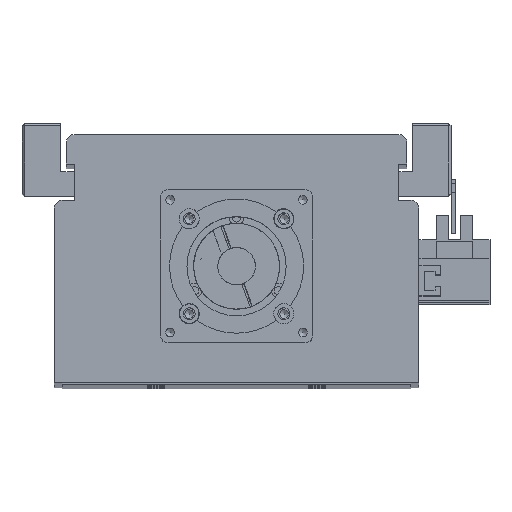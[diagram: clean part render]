
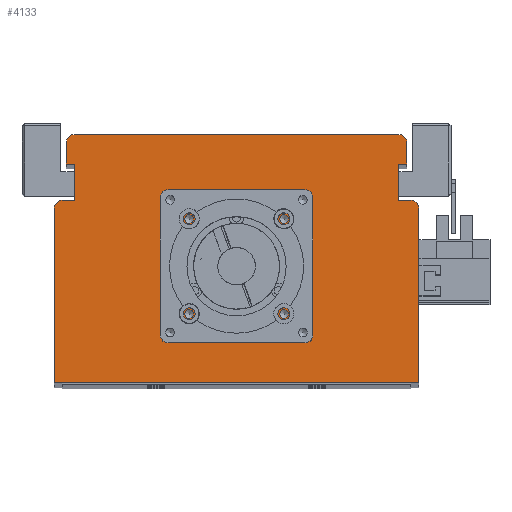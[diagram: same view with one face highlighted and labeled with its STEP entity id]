
A CAD part, top view. The second image highlights one B-rep face of the part: STEP entity #4133.
In plain terms, the highlighted planar face has unit normal (0, 0, 1).
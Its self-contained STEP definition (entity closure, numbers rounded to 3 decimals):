
#2691=CARTESIAN_POINT('',(19.321,61.5,1045.));
#2692=VERTEX_POINT('',#2691);
#2693=CARTESIAN_POINT('',(17.7,61.5,1045.));
#2694=DIRECTION('',(0.0,0.0,-1.0));
#2695=DIRECTION('',(1.0,0.0,0.0));
#2696=AXIS2_PLACEMENT_3D('',#2693,#2694,#2695);
#2697=CIRCLE('',#2696,1.621);
#2698=EDGE_CURVE('',#2692,#2692,#2697,.T.);
#2770=CARTESIAN_POINT('',(19.321,26.1,1045.));
#2771=VERTEX_POINT('',#2770);
#2772=CARTESIAN_POINT('',(17.7,26.1,1045.));
#2773=DIRECTION('',(0.0,0.0,-1.0));
#2774=DIRECTION('',(1.0,0.0,0.0));
#2775=AXIS2_PLACEMENT_3D('',#2772,#2773,#2774);
#2776=CIRCLE('',#2775,1.621);
#2777=EDGE_CURVE('',#2771,#2771,#2776,.T.);
#2849=CARTESIAN_POINT('',(-16.079,26.1,1045.));
#2850=VERTEX_POINT('',#2849);
#2851=CARTESIAN_POINT('',(-17.7,26.1,1045.));
#2852=DIRECTION('',(0.0,0.0,-1.0));
#2853=DIRECTION('',(1.0,0.0,0.0));
#2854=AXIS2_PLACEMENT_3D('',#2851,#2852,#2853);
#2855=CIRCLE('',#2854,1.621);
#2856=EDGE_CURVE('',#2850,#2850,#2855,.T.);
#2928=CARTESIAN_POINT('',(-16.079,61.5,1045.));
#2929=VERTEX_POINT('',#2928);
#2930=CARTESIAN_POINT('',(-17.7,61.5,1045.));
#2931=DIRECTION('',(0.0,0.0,-1.0));
#2932=DIRECTION('',(1.0,0.0,0.0));
#2933=AXIS2_PLACEMENT_3D('',#2930,#2931,#2932);
#2934=CIRCLE('',#2933,1.621);
#2935=EDGE_CURVE('',#2929,#2929,#2934,.T.);
#2969=CARTESIAN_POINT('',(26.5,43.8,1045.));
#2970=VERTEX_POINT('',#2969);
#2971=CARTESIAN_POINT('',(24.5,43.8,1045.));
#2972=DIRECTION('',(0.0,0.0,-1.0));
#2973=DIRECTION('',(1.0,0.0,0.0));
#2974=AXIS2_PLACEMENT_3D('',#2971,#2972,#2973);
#2975=CIRCLE('',#2974,2.0);
#2976=EDGE_CURVE('',#2970,#2970,#2975,.T.);
#3018=CARTESIAN_POINT('',(-22.5,43.8,1045.));
#3019=VERTEX_POINT('',#3018);
#3020=CARTESIAN_POINT('',(-24.5,43.8,1045.));
#3021=DIRECTION('',(0.0,0.0,-1.0));
#3022=DIRECTION('',(1.0,0.0,0.0));
#3023=AXIS2_PLACEMENT_3D('',#3020,#3021,#3022);
#3024=CIRCLE('',#3023,2.0);
#3025=EDGE_CURVE('',#3019,#3019,#3024,.T.);
#3949=CARTESIAN_POINT('',(21.05,43.8,1045.));
#3950=VERTEX_POINT('',#3949);
#3951=CARTESIAN_POINT('',(0.0,43.8,1045.));
#3952=DIRECTION('',(0.0,0.0,-1.0));
#3953=DIRECTION('',(-1.0,0.0,0.0));
#3954=AXIS2_PLACEMENT_3D('',#3951,#3952,#3953);
#3955=CIRCLE('',#3954,21.05);
#3956=EDGE_CURVE('',#3950,#3950,#3955,.T.);
#3973=CARTESIAN_POINT('',(0.,29.533,1045.));
#3974=DIRECTION('',(0.0,0.0,1.0));
#3975=DIRECTION('',(1.0,0.0,0.0));
#3976=AXIS2_PLACEMENT_3D('',#3973,#3974,#3975);
#3977=PLANE('',#3976);
#3978=CARTESIAN_POINT('',(-65.,68.5,1045.));
#3979=VERTEX_POINT('',#3978);
#3980=CARTESIAN_POINT('',(-60.5,68.5,1045.));
#3981=VERTEX_POINT('',#3980);
#3982=CARTESIAN_POINT('',(-65.,68.5,1045.));
#3983=DIRECTION('',(1.0,0.0,0.0));
#3984=VECTOR('',#3983,4.5);
#3985=LINE('',#3982,#3984);
#3986=EDGE_CURVE('',#3979,#3981,#3985,.T.);
#3987=ORIENTED_EDGE('',*,*,#3986,.F.);
#3988=CARTESIAN_POINT('',(-68.,65.5,1045.));
#3989=VERTEX_POINT('',#3988);
#3990=CARTESIAN_POINT('',(-65.,65.5,1045.0));
#3991=DIRECTION('',(0.0,0.0,-1.0));
#3992=DIRECTION('',(0.0,1.0,0.0));
#3993=AXIS2_PLACEMENT_3D('',#3990,#3991,#3992);
#3994=CIRCLE('',#3993,3.);
#3995=EDGE_CURVE('',#3989,#3979,#3994,.T.);
#3996=ORIENTED_EDGE('',*,*,#3995,.F.);
#3997=CARTESIAN_POINT('',(-68.0,0.5,1045.));
#3998=VERTEX_POINT('',#3997);
#3999=CARTESIAN_POINT('',(-68.0,0.5,1045.));
#4000=DIRECTION('',(0.0,1.0,0.0));
#4001=VECTOR('',#4000,65.0);
#4002=LINE('',#3999,#4001);
#4003=EDGE_CURVE('',#3998,#3989,#4002,.T.);
#4004=ORIENTED_EDGE('',*,*,#4003,.F.);
#4005=CARTESIAN_POINT('',(68.0,0.5,1045.));
#4006=VERTEX_POINT('',#4005);
#4007=CARTESIAN_POINT('',(68.0,0.5,1045.));
#4008=DIRECTION('',(-1.0,0.0,0.0));
#4009=VECTOR('',#4008,136.0);
#4010=LINE('',#4007,#4009);
#4011=EDGE_CURVE('',#4006,#3998,#4010,.T.);
#4012=ORIENTED_EDGE('',*,*,#4011,.F.);
#4013=CARTESIAN_POINT('',(68.0,65.5,1045.));
#4014=VERTEX_POINT('',#4013);
#4015=CARTESIAN_POINT('',(68.0,65.5,1045.));
#4016=DIRECTION('',(0.0,-1.0,0.0));
#4017=VECTOR('',#4016,65.0);
#4018=LINE('',#4015,#4017);
#4019=EDGE_CURVE('',#4014,#4006,#4018,.T.);
#4020=ORIENTED_EDGE('',*,*,#4019,.F.);
#4021=CARTESIAN_POINT('',(65.,68.5,1045.));
#4022=VERTEX_POINT('',#4021);
#4023=CARTESIAN_POINT('',(65.,65.5,1045.0));
#4024=DIRECTION('',(0.0,0.0,-1.0));
#4025=DIRECTION('',(1.0,0.0,0.0));
#4026=AXIS2_PLACEMENT_3D('',#4023,#4024,#4025);
#4027=CIRCLE('',#4026,3.);
#4028=EDGE_CURVE('',#4022,#4014,#4027,.T.);
#4029=ORIENTED_EDGE('',*,*,#4028,.F.);
#4030=CARTESIAN_POINT('',(60.5,68.5,1045.));
#4031=VERTEX_POINT('',#4030);
#4032=CARTESIAN_POINT('',(60.5,68.5,1045.));
#4033=DIRECTION('',(1.0,0.0,0.0));
#4034=VECTOR('',#4033,4.5);
#4035=LINE('',#4032,#4034);
#4036=EDGE_CURVE('',#4031,#4022,#4035,.T.);
#4037=ORIENTED_EDGE('',*,*,#4036,.F.);
#4038=CARTESIAN_POINT('',(60.5,82.,1045.0));
#4039=VERTEX_POINT('',#4038);
#4040=CARTESIAN_POINT('',(60.5,82.,1045.0));
#4041=DIRECTION('',(0.0,-1.0,0.0));
#4042=VECTOR('',#4041,13.5);
#4043=LINE('',#4040,#4042);
#4044=EDGE_CURVE('',#4039,#4031,#4043,.T.);
#4045=ORIENTED_EDGE('',*,*,#4044,.F.);
#4046=CARTESIAN_POINT('',(63.5,82.,1045.0));
#4047=VERTEX_POINT('',#4046);
#4048=CARTESIAN_POINT('',(63.5,82.,1045.0));
#4049=DIRECTION('',(-1.0,0.0,0.0));
#4050=VECTOR('',#4049,3.0);
#4051=LINE('',#4048,#4050);
#4052=EDGE_CURVE('',#4047,#4039,#4051,.T.);
#4053=ORIENTED_EDGE('',*,*,#4052,.F.);
#4054=CARTESIAN_POINT('',(63.5,90.0,1045.0));
#4055=VERTEX_POINT('',#4054);
#4056=CARTESIAN_POINT('',(63.5,90.0,1045.0));
#4057=DIRECTION('',(0.0,-1.0,0.0));
#4058=VECTOR('',#4057,8.);
#4059=LINE('',#4056,#4058);
#4060=EDGE_CURVE('',#4055,#4047,#4059,.T.);
#4061=ORIENTED_EDGE('',*,*,#4060,.F.);
#4062=CARTESIAN_POINT('',(60.5,93.,1045.0));
#4063=VERTEX_POINT('',#4062);
#4064=CARTESIAN_POINT('',(60.5,90.0,1045.0));
#4065=DIRECTION('',(0.0,0.0,-1.0));
#4066=DIRECTION('',(1.0,0.0,0.0));
#4067=AXIS2_PLACEMENT_3D('',#4064,#4065,#4066);
#4068=CIRCLE('',#4067,3.);
#4069=EDGE_CURVE('',#4063,#4055,#4068,.T.);
#4070=ORIENTED_EDGE('',*,*,#4069,.F.);
#4071=CARTESIAN_POINT('',(-60.5,93.0,1045.0));
#4072=VERTEX_POINT('',#4071);
#4073=CARTESIAN_POINT('',(-60.5,93.0,1045.0));
#4074=DIRECTION('',(1.0,0.0,0.0));
#4075=VECTOR('',#4074,121.0);
#4076=LINE('',#4073,#4075);
#4077=EDGE_CURVE('',#4072,#4063,#4076,.T.);
#4078=ORIENTED_EDGE('',*,*,#4077,.F.);
#4079=CARTESIAN_POINT('',(-63.5,90.0,1045.0));
#4080=VERTEX_POINT('',#4079);
#4081=CARTESIAN_POINT('',(-60.5,90.0,1045.0));
#4082=DIRECTION('',(0.0,0.0,-1.0));
#4083=DIRECTION('',(0.0,1.0,0.0));
#4084=AXIS2_PLACEMENT_3D('',#4081,#4082,#4083);
#4085=CIRCLE('',#4084,3.);
#4086=EDGE_CURVE('',#4080,#4072,#4085,.T.);
#4087=ORIENTED_EDGE('',*,*,#4086,.F.);
#4088=CARTESIAN_POINT('',(-63.5,82.,1045.0));
#4089=VERTEX_POINT('',#4088);
#4090=CARTESIAN_POINT('',(-63.5,82.,1045.0));
#4091=DIRECTION('',(0.0,1.0,0.0));
#4092=VECTOR('',#4091,8.);
#4093=LINE('',#4090,#4092);
#4094=EDGE_CURVE('',#4089,#4080,#4093,.T.);
#4095=ORIENTED_EDGE('',*,*,#4094,.F.);
#4096=CARTESIAN_POINT('',(-60.5,82.,1045.0));
#4097=VERTEX_POINT('',#4096);
#4098=CARTESIAN_POINT('',(-60.5,82.,1045.0));
#4099=DIRECTION('',(-1.0,0.0,0.0));
#4100=VECTOR('',#4099,3.);
#4101=LINE('',#4098,#4100);
#4102=EDGE_CURVE('',#4097,#4089,#4101,.T.);
#4103=ORIENTED_EDGE('',*,*,#4102,.F.);
#4104=CARTESIAN_POINT('',(-60.5,68.5,1045.));
#4105=DIRECTION('',(0.0,1.0,0.0));
#4106=VECTOR('',#4105,13.5);
#4107=LINE('',#4104,#4106);
#4108=EDGE_CURVE('',#3981,#4097,#4107,.T.);
#4109=ORIENTED_EDGE('',*,*,#4108,.F.);
#4110=EDGE_LOOP('',(#3987,#3996,#4004,#4012,#4020,#4029,#4037,#4045,#4053,#4061,#4070,#4078,#4087,#4095,#4103,#4109));
#4111=FACE_OUTER_BOUND('',#4110,.T.);
#4112=ORIENTED_EDGE('',*,*,#2698,.T.);
#4113=EDGE_LOOP('',(#4112));
#4114=FACE_BOUND('',#4113,.T.);
#4115=ORIENTED_EDGE('',*,*,#2777,.T.);
#4116=EDGE_LOOP('',(#4115));
#4117=FACE_BOUND('',#4116,.T.);
#4118=ORIENTED_EDGE('',*,*,#2856,.T.);
#4119=EDGE_LOOP('',(#4118));
#4120=FACE_BOUND('',#4119,.T.);
#4121=ORIENTED_EDGE('',*,*,#2935,.T.);
#4122=EDGE_LOOP('',(#4121));
#4123=FACE_BOUND('',#4122,.T.);
#4124=ORIENTED_EDGE('',*,*,#2976,.T.);
#4125=EDGE_LOOP('',(#4124));
#4126=FACE_BOUND('',#4125,.T.);
#4127=ORIENTED_EDGE('',*,*,#3025,.T.);
#4128=EDGE_LOOP('',(#4127));
#4129=FACE_BOUND('',#4128,.T.);
#4130=ORIENTED_EDGE('',*,*,#3956,.T.);
#4131=EDGE_LOOP('',(#4130));
#4132=FACE_BOUND('',#4131,.T.);
#4133=ADVANCED_FACE('',(#4111,#4114,#4117,#4120,#4123,#4126,#4129,#4132),#3977,.T.);
